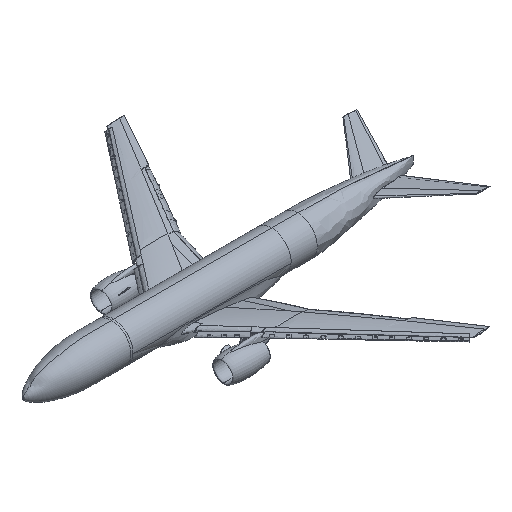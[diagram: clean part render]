
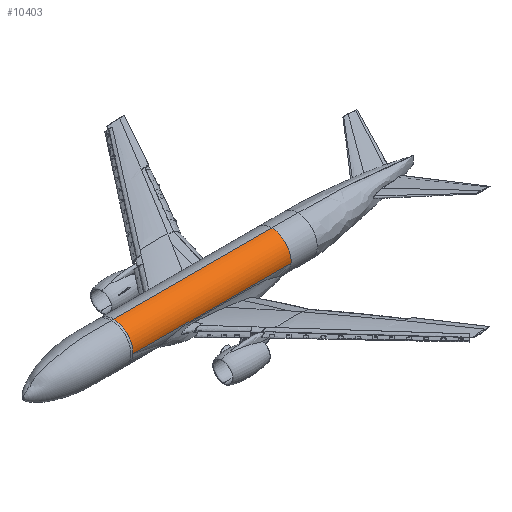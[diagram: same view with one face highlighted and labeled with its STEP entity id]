
A CAD part, isometric view. The second image highlights one B-rep face of the part: STEP entity #10403.
In plain terms, the highlighted free-form (B-spline) face has degree [3, 1] with [11, 2] control points.
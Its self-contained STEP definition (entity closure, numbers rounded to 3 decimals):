
#8805=FACE_OUTER_BOUND('',#12576,.T.);
#10403=ADVANCED_FACE('',(#8805),#12041,.F.);
#12041=B_SPLINE_SURFACE_WITH_KNOTS('',3,1,((#56244,#56245),(#56246,#56247),
(#56248,#56249),(#56250,#56251),(#56252,#56253),(#56254,#56255),(#56256,
#56257),(#56258,#56259),(#56260,#56261),(#56262,#56263),(#56264,#56265)),
 .UNSPECIFIED.,.F.,.F.,.F.,(4,1,1,1,1,1,1,1,4),(2,2),(0.,0.006,
0.124,0.243,0.48,0.717,
0.855,0.994,1.),(0.,1.),.UNSPECIFIED.);
#12576=EDGE_LOOP('',(#14351,#14352,#14353,#14354));
#14351=ORIENTED_EDGE('',*,*,#26083,.F.);
#14352=ORIENTED_EDGE('',*,*,#26089,.F.);
#14353=ORIENTED_EDGE('',*,*,#26090,.T.);
#14354=ORIENTED_EDGE('',*,*,#26086,.F.);
#23243=VERTEX_POINT('',#56149);
#23244=VERTEX_POINT('',#56156);
#23245=VERTEX_POINT('',#56201);
#23247=VERTEX_POINT('',#56237);
#26083=EDGE_CURVE('',#23243,#23244,#30534,.T.);
#26086=EDGE_CURVE('',#23244,#23245,#30537,.T.);
#26089=EDGE_CURVE('',#23247,#23243,#30540,.T.);
#26090=EDGE_CURVE('',#23247,#23245,#30541,.T.);
#30534=B_SPLINE_CURVE_WITH_KNOTS('',3,(#56150,#56151,#56152,#56153,#56154,
#56155),.UNSPECIFIED.,.F.,.F.,(4,2,4),(0.,0.5,1.),.UNSPECIFIED.);
#30537=B_SPLINE_CURVE_WITH_KNOTS('',3,(#56197,#56198,#56199,#56200),
 .UNSPECIFIED.,.F.,.F.,(4,4),(0.,1.),.UNSPECIFIED.);
#30540=B_SPLINE_CURVE_WITH_KNOTS('',3,(#56233,#56234,#56235,#56236),
 .UNSPECIFIED.,.F.,.F.,(4,4),(0.,1.),.UNSPECIFIED.);
#30541=B_SPLINE_CURVE_WITH_KNOTS('',3,(#56238,#56239,#56240,#56241,#56242,
#56243),.UNSPECIFIED.,.F.,.F.,(4,2,4),(0.,0.5,1.),.UNSPECIFIED.);
#56149=CARTESIAN_POINT('',(45.,0.,9.265));
#56150=CARTESIAN_POINT('',(45.001,0.,9.265));
#56151=CARTESIAN_POINT('',(45.001,-0.934,9.255));
#56152=CARTESIAN_POINT('',(45.001,-1.791,8.877));
#56153=CARTESIAN_POINT('',(45.001,-3.021,7.564));
#56154=CARTESIAN_POINT('',(45.001,-3.348,6.647));
#56155=CARTESIAN_POINT('',(45.001,-3.287,5.75));
#56156=CARTESIAN_POINT('',(45.001,-3.287,5.75));
#56197=CARTESIAN_POINT('',(45.,-3.287,5.75));
#56198=CARTESIAN_POINT('',(36.,-3.287,5.75));
#56199=CARTESIAN_POINT('',(27.,-3.287,5.75));
#56200=CARTESIAN_POINT('',(18.,-3.287,5.75));
#56201=CARTESIAN_POINT('',(18.,-3.287,5.75));
#56233=CARTESIAN_POINT('',(18.,0.,9.265));
#56234=CARTESIAN_POINT('',(27.,0.,9.265));
#56235=CARTESIAN_POINT('',(36.,0.,9.265));
#56236=CARTESIAN_POINT('',(45.,0.,9.265));
#56237=CARTESIAN_POINT('',(18.,0.,9.265));
#56238=CARTESIAN_POINT('',(18.,0.,9.265));
#56239=CARTESIAN_POINT('',(18.,-0.934,9.255));
#56240=CARTESIAN_POINT('',(18.,-1.791,8.877));
#56241=CARTESIAN_POINT('',(18.,-3.021,7.564));
#56242=CARTESIAN_POINT('',(18.,-3.348,6.647));
#56243=CARTESIAN_POINT('',(18.,-3.287,5.75));
#56244=CARTESIAN_POINT('',(45.162,0.034,9.265));
#56245=CARTESIAN_POINT('',(17.838,0.034,9.265));
#56246=CARTESIAN_POINT('',(45.162,0.022,9.265));
#56247=CARTESIAN_POINT('',(17.838,0.022,9.265));
#56248=CARTESIAN_POINT('',(45.162,-0.213,9.264));
#56249=CARTESIAN_POINT('',(17.838,-0.213,9.264));
#56250=CARTESIAN_POINT('',(45.162,-0.651,9.223));
#56251=CARTESIAN_POINT('',(17.838,-0.651,9.223));
#56252=CARTESIAN_POINT('',(45.162,-1.473,8.97));
#56253=CARTESIAN_POINT('',(17.838,-1.473,8.97));
#56254=CARTESIAN_POINT('',(45.162,-2.391,8.361));
#56255=CARTESIAN_POINT('',(17.838,-2.391,8.361));
#56256=CARTESIAN_POINT('',(45.162,-3.021,7.416));
#56257=CARTESIAN_POINT('',(17.838,-3.021,7.416));
#56258=CARTESIAN_POINT('',(45.162,-3.279,6.509));
#56259=CARTESIAN_POINT('',(17.838,-3.279,6.509));
#56260=CARTESIAN_POINT('',(45.162,-3.304,5.991));
#56261=CARTESIAN_POINT('',(17.838,-3.304,5.991));
#56262=CARTESIAN_POINT('',(45.162,-3.285,5.728));
#56263=CARTESIAN_POINT('',(17.838,-3.285,5.728));
#56264=CARTESIAN_POINT('',(45.162,-3.285,5.718));
#56265=CARTESIAN_POINT('',(17.838,-3.285,5.718));
